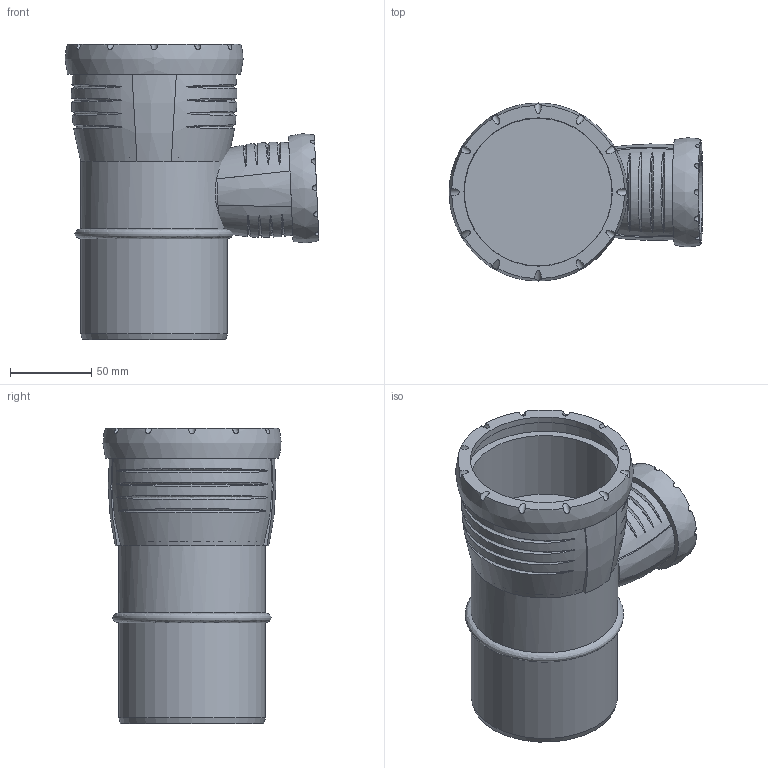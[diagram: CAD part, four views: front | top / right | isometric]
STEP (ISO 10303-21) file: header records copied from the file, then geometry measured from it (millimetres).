
FILE_DESCRIPTION(/* description */ (''),/* implementation_level */ '2;1');
FILE_NAME(/* name */ 'H:\Geberit-Teile\Export\Abzweig PP\stp\393448.stp',/* time_stamp */ '2017-02-13T13:17:50+01:00',/* author */ ('seihe2'),/* organization */ (''),/* preprocessor_version */ 'ST-DEVELOPER v15.2',/* originating_system */ 'Autodesk Inventor 2014',/* authorisation */ '');
FILE_SCHEMA (('AUTOMOTIVE_DESIGN { 1 0 10303 214 3 1 1 }'));
Length unit declared in the file: millimetre
Products named in the file (1): 393448
Bounding box: 156.06 x 109.47 x 181.5 mm (x, y, z)
Volume: 727840.6 mm3; surface area: 160622.5 mm2
Topology: 5 solids, 5 shells, 108 faces, 250 edges, 176 vertices
Faces by surface type: bspline 47, cylinder 41, plane 19, cone 1
Full cylindrical faces by diameter (mm): 36.243 x1, 50.7 x1, 51 x1, 60.1 x1, 74.497 x1, 81.6 x1, 90.2 x3, 90.9 x1, 91.2 x1, 100.2 x1
Entity records: 7688 total; most frequent: CARTESIAN_POINT 5455, ORIENTED_EDGE 470, DIRECTION 333, EDGE_CURVE 234, VERTEX_POINT 173, AXIS2_PLACEMENT_3D 166, EDGE_LOOP 149, B_SPLINE_CURVE_WITH_KNOTS 127
